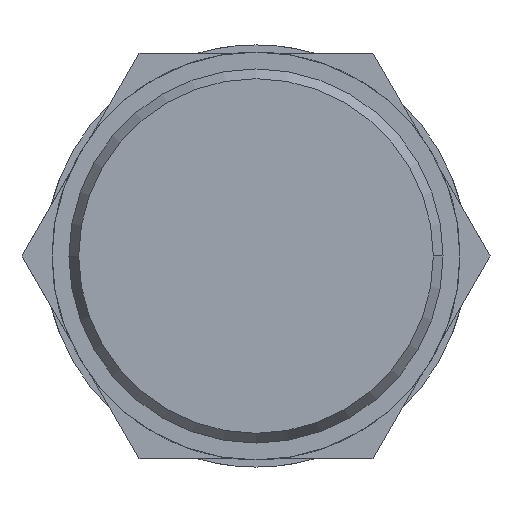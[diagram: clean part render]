
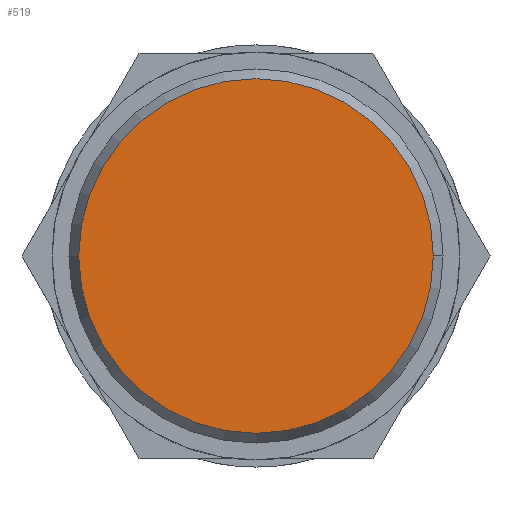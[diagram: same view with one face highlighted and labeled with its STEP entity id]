
A CAD part, left-side view. The second image highlights one B-rep face of the part: STEP entity #519.
In plain terms, the highlighted planar face has unit normal (-1, 0, 0).
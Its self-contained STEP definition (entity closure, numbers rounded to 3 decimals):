
#65 = ORIENTED_EDGE ( 'NONE', *, *, #449, .F. ) ;
#279 = CARTESIAN_POINT ( 'NONE',  ( 0., -10.5, 0. ) ) ;
#280 = AXIS2_PLACEMENT_3D ( 'NONE', #540, #623, #739 ) ;
#283 = AXIS2_PLACEMENT_3D ( 'NONE', #494, #364, #352 ) ;
#352 = DIRECTION ( 'NONE',  ( 0., -1., 0. ) ) ;
#364 = DIRECTION ( 'NONE',  ( -1., 0., 0. ) ) ;
#449 = EDGE_CURVE ( 'NONE', #1437, #1286, #801, .T. ) ;
#456 = AXIS2_PLACEMENT_3D ( 'NONE', #977, #965, #939 ) ;
#461 = EDGE_LOOP ( 'NONE', ( #565, #65 ) ) ;
#484 = PLANE ( 'NONE',  #283 ) ;
#494 = CARTESIAN_POINT ( 'NONE',  ( 0., 0., 0. ) ) ;
#519 = ADVANCED_FACE ( 'NONE', ( #1115 ), #484, .T. ) ;
#540 = CARTESIAN_POINT ( 'NONE',  ( 0., 0., 0. ) ) ;
#565 = ORIENTED_EDGE ( 'NONE', *, *, #851, .F. ) ;
#620 = CARTESIAN_POINT ( 'NONE',  ( 0., 10.5, 0. ) ) ;
#623 = DIRECTION ( 'NONE',  ( 1., 0., 0. ) ) ;
#739 = DIRECTION ( 'NONE',  ( 0., 1., 0. ) ) ;
#801 = CIRCLE ( 'NONE', #456, 10.5 ) ;
#851 = EDGE_CURVE ( 'NONE', #1286, #1437, #889, .T. ) ;
#889 = CIRCLE ( 'NONE', #280, 10.5 ) ;
#939 = DIRECTION ( 'NONE',  ( 0., 1., 0. ) ) ;
#965 = DIRECTION ( 'NONE',  ( 1., 0., 0. ) ) ;
#977 = CARTESIAN_POINT ( 'NONE',  ( 0., 0., 0. ) ) ;
#1115 = FACE_OUTER_BOUND ( 'NONE', #461, .T. ) ;
#1286 = VERTEX_POINT ( 'NONE', #620 ) ;
#1437 = VERTEX_POINT ( 'NONE', #279 ) ;
